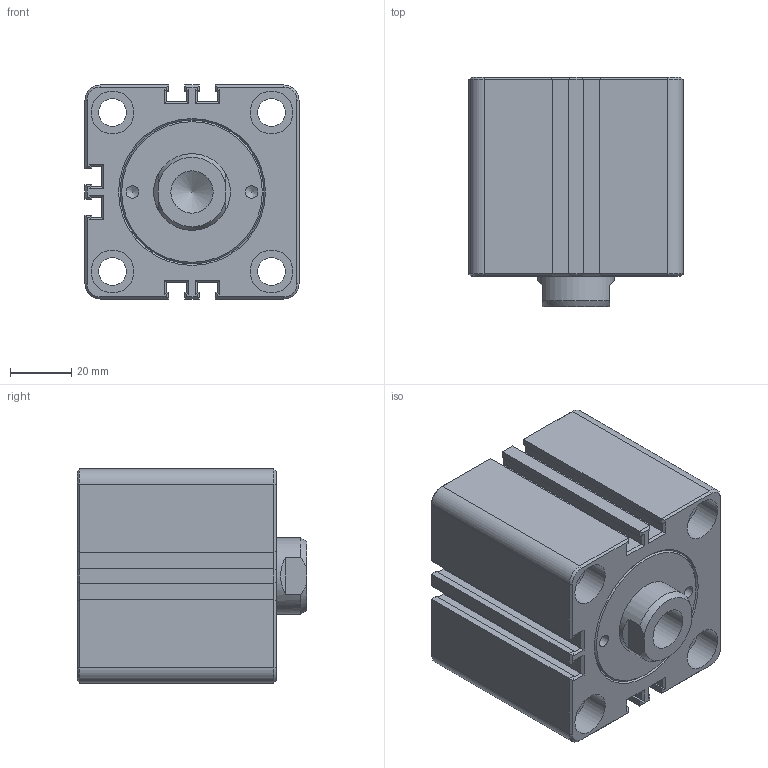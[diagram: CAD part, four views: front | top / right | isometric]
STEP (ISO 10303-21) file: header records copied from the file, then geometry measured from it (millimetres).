
FILE_DESCRIPTION(/* description */ ('Unknown'),/* implementation_level */ '2;1');
FILE_NAME(/* name */ 'HTM70-SD40X10N',/* time_stamp */ '2022-08-31T02:45:58+08:00',/* author */ ('Unknown'),/* organization */ ('Unknown'),/* preprocessor_version */ 'ST-DEVELOPER v16.7',/* originating_system */ 'DEX',/* authorisation */ $);
FILE_SCHEMA (('AUTOMOTIVE_DESIGN {1 0 10303 214 3 1 1}'));
Length unit declared in the file: millimetre
Products named in the file (1): HTM70-SD40X10N
Bounding box: 70 x 75 x 70 mm (x, y, z)
Volume: 278811.1 mm3; surface area: 42859.9 mm2
Topology: 1 solids, 1 shells, 235 faces, 540 edges, 321 vertices
Faces by surface type: plane 176, cone 24, cylinder 23, bspline 12
Full cylindrical faces by diameter (mm): 4.1 x2, 6 x1, 9 x4, 12.301 x2, 13.835 x1, 14 x8, 25 x1
Entity records: 7999 total; most frequent: CARTESIAN_POINT 1283, ORIENTED_EDGE 1002, DIRECTION 992, EDGE_CURVE 501, LINE 390, VECTOR 390, VERTEX_POINT 312, AXIS2_PLACEMENT_3D 301
